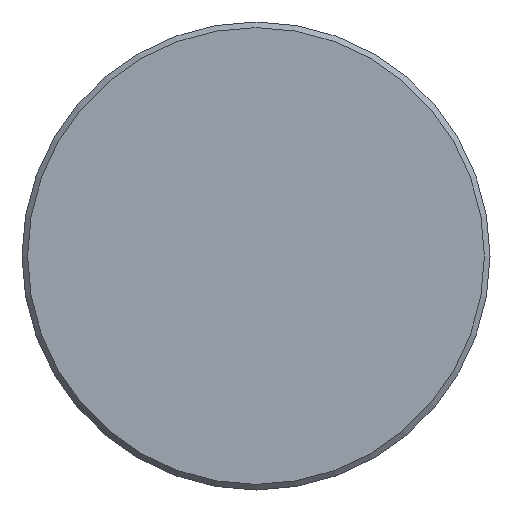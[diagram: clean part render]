
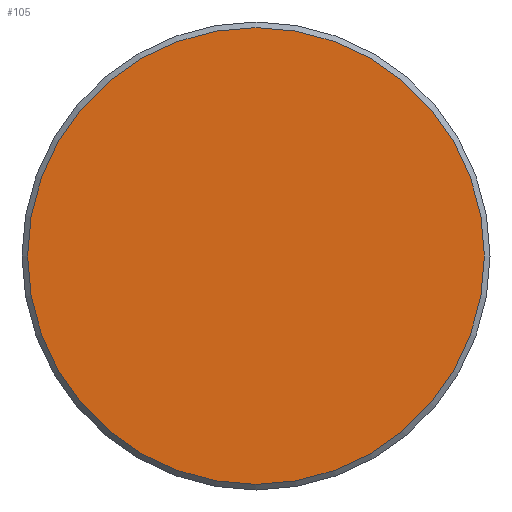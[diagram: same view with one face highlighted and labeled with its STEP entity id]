
A CAD part, left-side view. The second image highlights one B-rep face of the part: STEP entity #105.
In plain terms, the highlighted planar face has unit normal (-1, 0, 0).
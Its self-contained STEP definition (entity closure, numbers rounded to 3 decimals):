
#85=PLANE('',#437);
#91=FACE_OUTER_BOUND('',#171,.T.);
#105=ADVANCED_FACE('',(#91),#85,.F.);
#171=EDGE_LOOP('',(#215));
#215=ORIENTED_EDGE('',*,*,#353,.T.);
#313=VERTEX_POINT('',#628);
#353=EDGE_CURVE('',#313,#313,#402,.T.);
#402=CIRCLE('',#436,12.2);
#436=AXIS2_PLACEMENT_3D('',#627,#501,#502);
#437=AXIS2_PLACEMENT_3D('',#629,#503,#504);
#501=DIRECTION('',(-1.,0.,0.));
#502=DIRECTION('',(0.,0.,-1.));
#503=DIRECTION('',(1.,0.,0.));
#504=DIRECTION('',(0.,0.,-1.));
#627=CARTESIAN_POINT('',(-24.,0.,0.));
#628=CARTESIAN_POINT('',(-24.,0.,-12.2));
#629=CARTESIAN_POINT('',(-24.,0.,0.));
